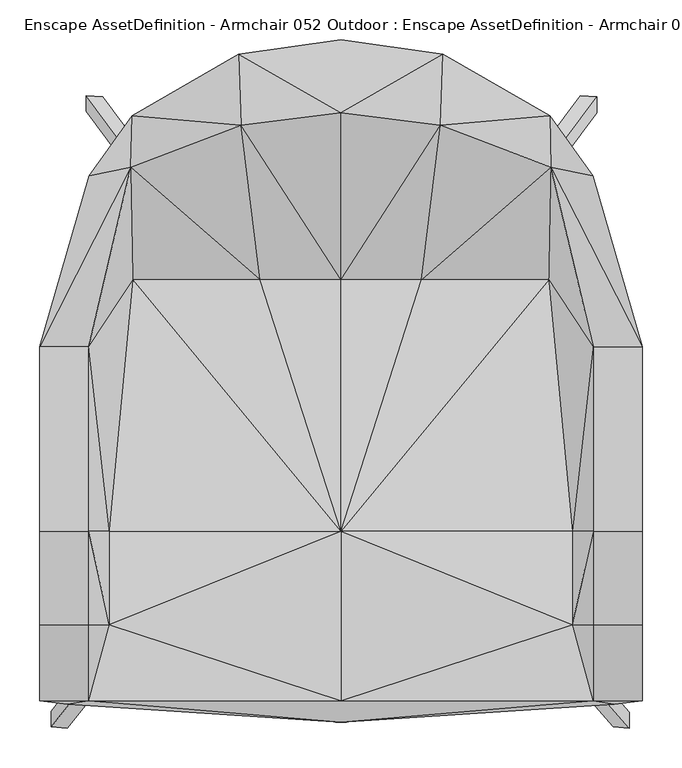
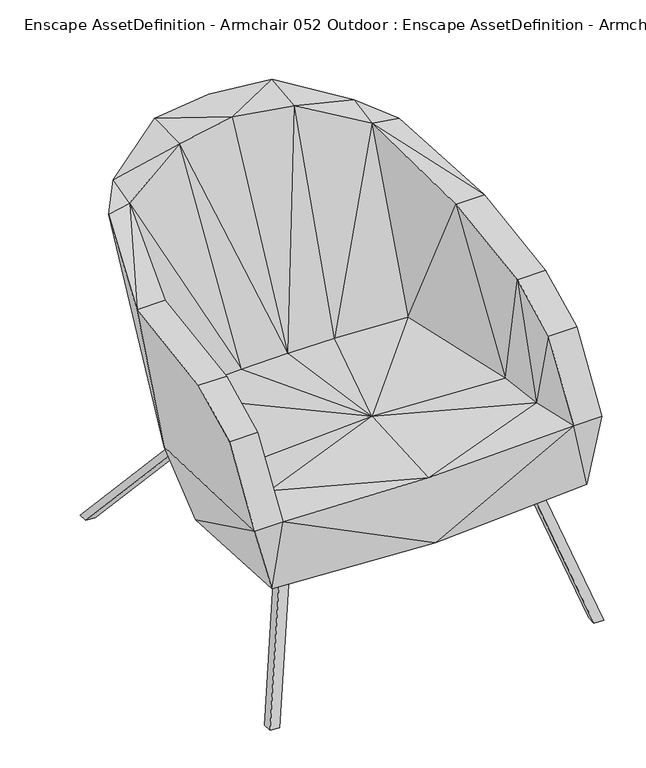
"""IFC4 building model written with IfcOpenShell, lengths in millimetres: geographic element geometry, Enscape AssetDefinition - Armchair 052 Outdoor : Enscape AssetDefinition - Armchair 052 Outdoor."""

from ifc_helpers import new_model, si_unit, origin, place, context, project, spatial, triangles, source, transform, mapped, element, save


def enscape_assetdefinition_armchair_052_outdoor_enscape_f294b56b(model_context):
    return source(origin(), model_context, "Body", "Tessellation", [
        triangles([(-320.6189472, 407.2730693, -6.05e-05), (-174.8338778, 230.240434, 279.9602371), (-300.1300452, 405.5490103, -3.03e-05), (-174.8338778, 210.2283016, 279.9602371), (-154.3449576, 208.5042244, 279.9602371), (-320.6189109, 427.2852199, -6.05e-05), (-300.1300089, 425.5611609, -3.03e-05), (-154.3449576, 228.5163387, 279.9602371), (342.9941076, -367.3208931, 2.02e-05), (249.8019762, -260.8979377, 309.343618), (363.483046, -369.0450248, 4.04e-05), (342.9941076, -347.3087789, 2.02e-05), (270.2908782, -262.6219422, 309.343618), (270.2908782, -242.6099007, 309.343618), (249.8019762, -240.8858053, 309.343618), (363.483046, -349.0328742, 4.04e-05), (-1.51e-05, -361.7640738, 302.7158976), (-336.4615485, -36.9883355, 275.6303234), (-344.2271356, -338.9387592, 302.7158612), (-244.7401667, 245.3693434, 251.595326), (-379.355442, -334.4887765, 445.1122931), (-379.3554783, -238.8804408, 593.5861519), (-379.3554783, 110.8788698, 686.1605885), (-379.3554783, 8.3710069, 431.816593), (-317.6680009, -238.8804408, 593.5861519), (-379.3554783, -121.1970717, 652.4672235), (-317.6679282, -121.1970354, 652.4672235), (-264.5019874, 337.2286892, 754.271184), (-317.2268578, 326.13667, 754.2711113), (-263.1152261, 401.9581684, 769.5884903), (-317.6679282, 110.8789061, 686.1605885), (-291.676546, -121.1970354, 433.9988726), (-261.8288402, 195.6860933, 393.6069703), (-3.53e-05, -121.1970717, 448.6195281), (-125.6287871, 389.6137911, 811.9789261), (-2.52e-05, 195.6860933, 402.0398131), (-101.5884758, 195.686057, 400.5552017), (101.5884303, 195.6860752, 400.5552381), (-7.57e-05, 497.410954, 816.3037348), (-128.6027607, 479.0720661, 817.3852821), (-7.57e-05, 405.4290685, 820.808329), (125.6286326, 389.6137911, 811.9789988), (128.6025972, 479.0721388, 817.3852821), (-114.13969, 312.9439433, 251.5953442), (-1.01e-05, 310.4650249, 251.5953442), (263.1150444, 401.9581684, 769.588563), (114.1396809, 312.9439796, 251.5953442), (-81.8395813, 102.4055316, 263.6128338), (-1.51e-05, -36.9883786, 275.6303779), (244.7401849, 245.3693434, 251.5953805), (-3.03e-05, -334.4887765, 435.2395308), (317.6678555, -334.4887765, 445.1123657), (344.2271356, -338.9388682, 302.7159521), (-291.6766186, -238.8804408, 449.2985564), (-317.6679282, -334.4887038, 445.1122931), (379.355442, -334.4887765, 445.1123657), (317.6678555, -238.8804408, 593.5862246), (336.4615122, -36.9883355, 275.6304142), (291.6764915, -238.8804408, 449.2986291), (379.3553329, -238.8805135, 593.5862246), (379.3553693, 8.3710467, 431.8166656), (379.3553329, -121.1970717, 652.4673689), (317.6678555, -121.1970717, 652.4673689), (379.3553329, 110.8788698, 686.1606611), (317.2267488, 326.1367064, 754.2712566), (81.8395722, 102.4055316, 263.6128883), (261.8288039, 195.6860933, 393.6070066), (264.5018057, 337.2286892, 754.2712566), (317.6678555, 110.8788698, 686.1606611), (291.6764915, -121.1970717, 433.9989816), (301.8156073, 407.273142, 2.02e-05), (155.1733046, 230.2404704, 279.9602735), (301.8156073, 427.2852562, 2.02e-05), (155.1733046, 210.2283561, 279.9602735), (175.6622247, 208.5042789, 279.9602735), (322.3045275, 405.5490103, 4.04e-05), (322.3045275, 425.5611609, 4.04e-05), (175.6622247, 228.516375, 279.9602735), (-365.0747729, -367.3208931, -6.05e-05), (-344.5858709, -369.0450248, -6.05e-05), (-365.0747729, -347.3088879, -6.05e-05), (-280.4573725, -260.8979377, 309.3435453), (-280.4573543, -240.885878, 309.3435453), (-259.9684341, -262.6220331, 309.3435453), (-259.9683978, -242.6099007, 309.3435453), (-344.5858709, -349.0328742, -6.05e-05)], [[86, 85, 84], [84, 80, 86], [81, 86, 80], [85, 86, 81], [84, 85, 83], [81, 83, 85], [83, 82, 84], [80, 84, 82], [80, 79, 81], [82, 79, 80], [83, 81, 79], [79, 82, 83], [77, 78, 75], [75, 76, 77], [73, 77, 76], [78, 77, 73], [75, 78, 72], [73, 72, 78], [72, 74, 75], [76, 75, 74], [76, 71, 73], [74, 71, 76], [72, 73, 71], [71, 74, 72], [59, 70, 34], [67, 38, 34], [67, 34, 70], [69, 67, 70], [68, 42, 38], [68, 38, 67], [68, 67, 69], [42, 68, 46], [46, 50, 47], [50, 66, 47], [50, 46, 65], [68, 65, 46], [68, 69, 64], [64, 65, 68], [63, 70, 59], [69, 70, 63], [64, 69, 63], [63, 62, 64], [65, 61, 50], [62, 61, 64], [64, 61, 65], [50, 61, 58], [60, 61, 62], [62, 63, 57], [63, 59, 57], [62, 57, 60], [58, 61, 56], [56, 61, 60], [56, 60, 57], [58, 56, 53], [57, 52, 56], [57, 59, 52], [53, 56, 52], [54, 51, 34], [34, 51, 59], [59, 51, 52], [54, 55, 51], [58, 53, 17], [51, 17, 52], [53, 52, 17], [51, 55, 17], [50, 58, 49], [47, 66, 49], [49, 66, 50], [17, 49, 58], [20, 48, 49], [49, 48, 44], [20, 44, 48], [20, 30, 44], [49, 45, 47], [44, 45, 49], [43, 47, 45], [46, 43, 42], [47, 43, 46], [43, 45, 39], [40, 39, 45], [30, 40, 44], [40, 45, 44], [41, 42, 43], [41, 39, 40], [43, 39, 41], [36, 38, 42], [34, 38, 36], [42, 41, 36], [36, 41, 35], [35, 40, 30], [35, 41, 40], [34, 36, 37], [37, 36, 35], [33, 34, 37], [33, 32, 34], [32, 54, 34], [27, 54, 32], [31, 32, 33], [31, 27, 32], [28, 33, 37], [28, 35, 30], [28, 37, 35], [28, 31, 33], [29, 30, 20], [28, 30, 29], [28, 29, 23], [27, 31, 23], [31, 28, 23], [26, 27, 23], [27, 25, 54], [25, 55, 54], [26, 25, 27], [26, 22, 25], [22, 26, 24], [26, 23, 24], [23, 29, 24], [24, 29, 20], [25, 22, 21], [21, 22, 24], [55, 25, 21], [18, 49, 17], [18, 21, 24], [18, 20, 49], [20, 18, 24], [18, 19, 21], [19, 17, 55], [19, 55, 21], [19, 18, 17], [16, 14, 13], [13, 11, 16], [12, 16, 11], [14, 16, 12], [13, 14, 15], [12, 15, 14], [15, 10, 13], [11, 13, 10], [11, 9, 12], [10, 9, 11], [15, 12, 9], [9, 10, 15], [7, 8, 5], [5, 3, 7], [6, 7, 3], [8, 7, 6], [5, 8, 2], [6, 2, 8], [2, 4, 5], [3, 5, 4], [3, 1, 6], [4, 1, 3], [2, 6, 1], [1, 4, 2]]),
    ])


if __name__ == "__main__":
    model = new_model("IFC4")
    model_context = context("Model", 3, world=origin())
    ifc_project = project(units=[si_unit("LENGTHUNIT", "METRE", prefix="MILLI")], contexts=[model_context])
    site = spatial("IfcSite", under=ifc_project)
    building = spatial("IfcBuilding", under=site)
    placement = place(None, origin())
    enscape_assetdefinition_armchair_052_outdoor_enscape_shape = enscape_assetdefinition_armchair_052_outdoor_enscape_f294b56b(model_context)
    element("IfcGeographicElement", 1, ObjectType="Enscape AssetDefinition - Armchair 052 Outdoor : Enscape AssetDefinition - Armchair 052 Outdoor", at=placement, inside=building, context=model_context, shape_type="MappedRepresentation", body=[
        mapped(enscape_assetdefinition_armchair_052_outdoor_enscape_shape, transform((0.0, 0.0, 0.0), x_axis=(1.0, 0.0, 0.0), y_axis=(0.0, 1.0, 0.0), z_axis=(0.0, 0.0, 1.0))),
    ])
    save(model, "model.ifc")
